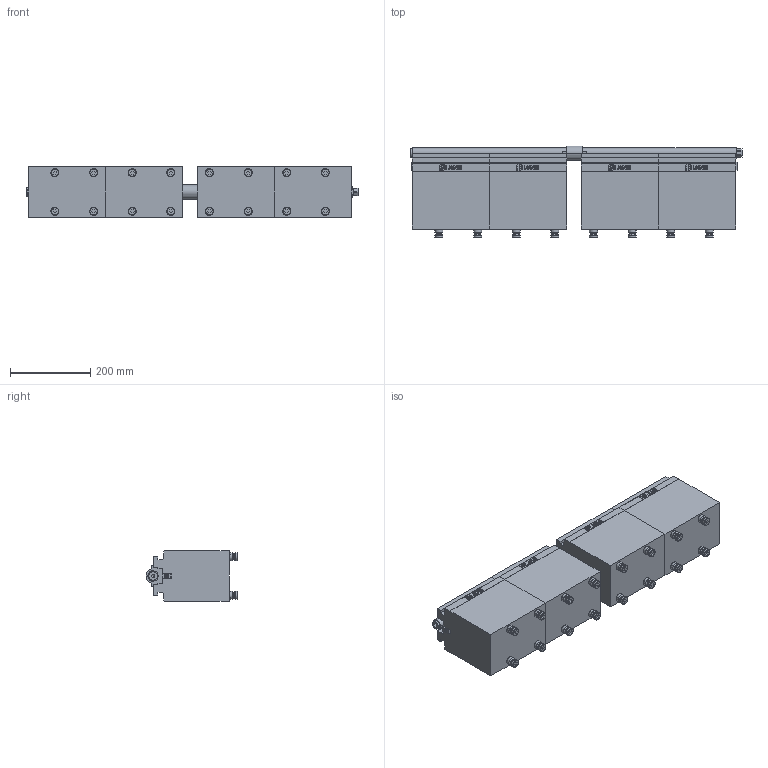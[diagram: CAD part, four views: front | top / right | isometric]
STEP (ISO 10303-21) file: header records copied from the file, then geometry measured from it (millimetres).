
FILE_DESCRIPTION (( 'STEP AP214' ), '1' );
FILE_NAME ('81823.STEP', '2020-10-28T07:21:20', ( '' ), ( '' ), 'SwSTEP 2.0', 'SolidWorks 2019', '' );
FILE_SCHEMA (( 'AUTOMOTIVE_DESIGN' ));
Length unit declared in the file: millimetre
Products named in the file (1): 81823
Bounding box: 825 x 228.5 x 125.6 mm (x, y, z)
Volume: 17300707.7 mm3; surface area: 880057.1 mm2
Topology: 43 solids, 43 shells, 2097 faces, 5185 edges, 3308 vertices
Faces by surface type: plane 1298, cylinder 295, cone 200, bspline 160, torus 144
Entity records: 86252 total; most frequent: CARTESIAN_POINT 13423, ORIENTED_EDGE 10282, DIRECTION 9775, EDGE_CURVE 5141, VECTOR 3751, LINE 3751, VERTEX_POINT 3308, AXIS2_PLACEMENT_3D 3012
